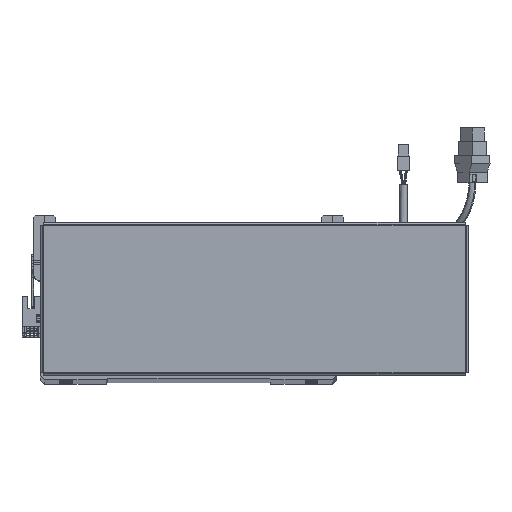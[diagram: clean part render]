
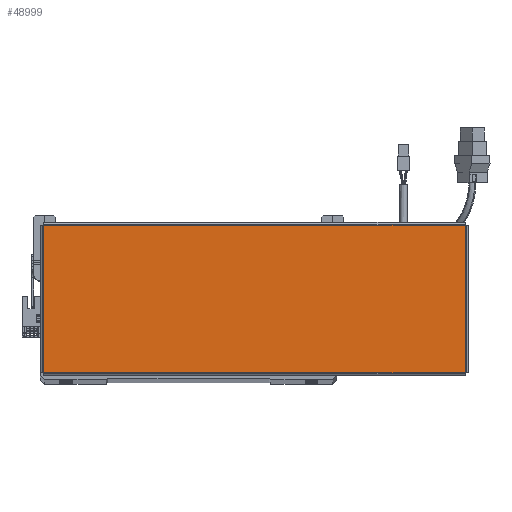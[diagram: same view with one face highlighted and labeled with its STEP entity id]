
A CAD part, top view. The second image highlights one B-rep face of the part: STEP entity #48999.
In plain terms, the highlighted planar face has unit normal (0, 0, 1).
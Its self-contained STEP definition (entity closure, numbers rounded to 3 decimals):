
#833 = EDGE_CURVE ( 'NONE', #50572, #27612, #61252, .T. ) ;
#3328 = LINE ( 'NONE', #24431, #24182 ) ;
#4718 = EDGE_CURVE ( 'NONE', #27612, #56388, #3328, .T. ) ;
#5833 = EDGE_CURVE ( 'NONE', #67892, #50572, #30788, .T. ) ;
#7066 = ORIENTED_EDGE ( 'NONE', *, *, #37772, .T. ) ;
#7245 = CARTESIAN_POINT ( 'NONE',  ( 0., 0., 0. ) ) ;
#10485 = CARTESIAN_POINT ( 'NONE',  ( 156.543, 54.763, 0. ) ) ;
#21072 = ORIENTED_EDGE ( 'NONE', *, *, #833, .T. ) ;
#23081 = CARTESIAN_POINT ( 'NONE',  ( 156.513, 54.763, 0. ) ) ;
#24182 = VECTOR ( 'NONE', #71625, 1000. ) ;
#24431 = CARTESIAN_POINT ( 'NONE',  ( 156.513, -54.793, 0. ) ) ;
#25274 = CARTESIAN_POINT ( 'NONE',  ( -156.513, -54.763, 0. ) ) ;
#27612 = VERTEX_POINT ( 'NONE', #30562 ) ;
#30562 = CARTESIAN_POINT ( 'NONE',  ( 156.513, -54.763, 0. ) ) ;
#30788 = LINE ( 'NONE', #62378, #34398 ) ;
#31770 = DIRECTION ( 'NONE',  ( 1., 0., 0. ) ) ;
#34398 = VECTOR ( 'NONE', #39306, 1000. ) ;
#34820 = FACE_OUTER_BOUND ( 'NONE', #68043, .T. ) ;
#35676 = PLANE ( 'NONE',  #63467 ) ;
#37393 = CARTESIAN_POINT ( 'NONE',  ( -156.543, -54.763, 0. ) ) ;
#37772 = EDGE_CURVE ( 'NONE', #56388, #67892, #74295, .T. ) ;
#38525 = VECTOR ( 'NONE', #31770, 1000. ) ;
#39306 = DIRECTION ( 'NONE',  ( 0., -1., 0. ) ) ;
#39935 = CARTESIAN_POINT ( 'NONE',  ( -156.513, 54.763, 0. ) ) ;
#42274 = DIRECTION ( 'NONE',  ( 1., 0., 0. ) ) ;
#48953 = ORIENTED_EDGE ( 'NONE', *, *, #4718, .T. ) ;
#48999 = ADVANCED_FACE ( 'NONE', ( #34820 ), #35676, .T. ) ;
#50572 = VERTEX_POINT ( 'NONE', #25274 ) ;
#56388 = VERTEX_POINT ( 'NONE', #23081 ) ;
#58995 = DIRECTION ( 'NONE',  ( 0., 0., 1. ) ) ;
#61252 = LINE ( 'NONE', #37393, #38525 ) ;
#62378 = CARTESIAN_POINT ( 'NONE',  ( -156.513, 54.793, 0. ) ) ;
#63467 = AXIS2_PLACEMENT_3D ( 'NONE', #7245, #58995, #42274 ) ;
#67892 = VERTEX_POINT ( 'NONE', #39935 ) ;
#68043 = EDGE_LOOP ( 'NONE', ( #21072, #48953, #7066, #73150 ) ) ;
#69069 = DIRECTION ( 'NONE',  ( -1., 0., 0. ) ) ;
#70683 = VECTOR ( 'NONE', #69069, 1000. ) ;
#71625 = DIRECTION ( 'NONE',  ( 0., 1., 0. ) ) ;
#73150 = ORIENTED_EDGE ( 'NONE', *, *, #5833, .T. ) ;
#74295 = LINE ( 'NONE', #10485, #70683 ) ;
